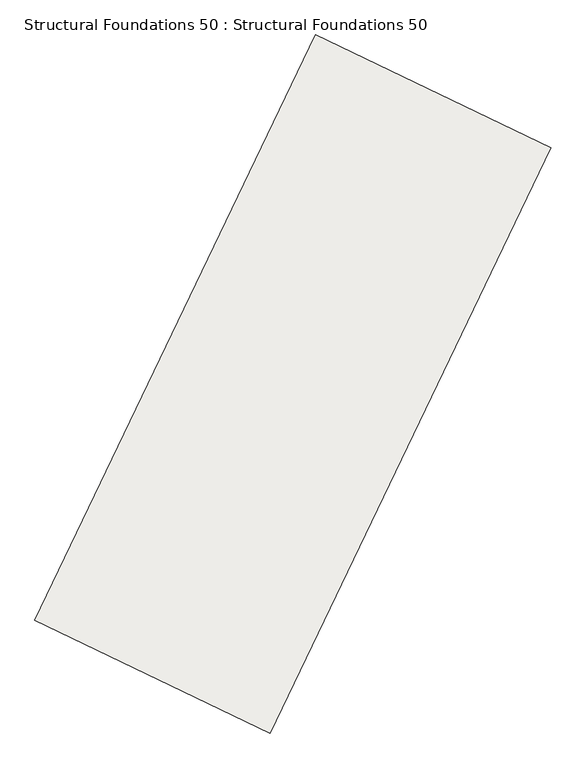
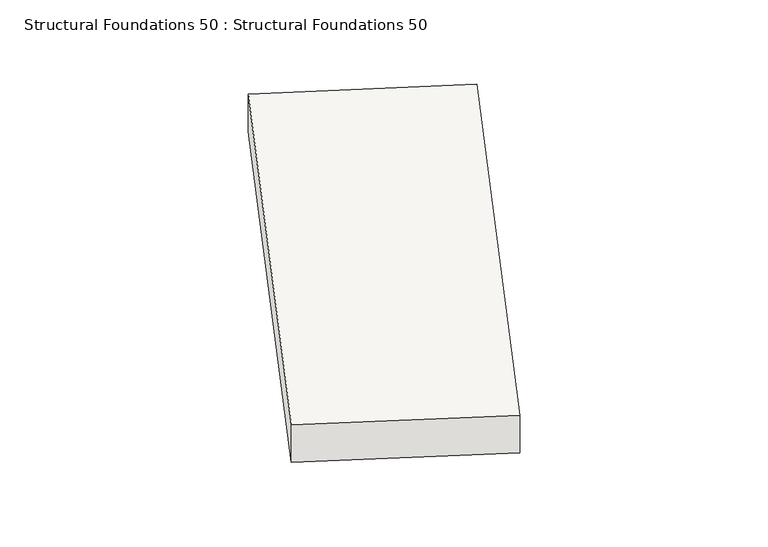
"""IFC4 building model written with IfcOpenShell, lengths in millimetres: slab geometry, Structural Foundations 50 : Structural Foundations 50."""

from ifc_helpers import new_model, si_unit, origin, place, context, project, spatial, faceted_brep, source, transform, mapped, element, save


def structural_foundations_50_structural_foundations_50_04dcd6c9(model_context):
    return source(origin(), model_context, "Body", "Brep", [
        faceted_brep([(423930.4709813, 369380.9181953, 646210.0), (427085.3914078, 367865.5247128, 646210.0), (427085.3914078, 367865.5247128, 646910.0), (423930.4709813, 369380.9181953, 646910.0), (427696.8280602, 377223.4021563, 646320.0), (427696.8280602, 377223.4021563, 647020.0), (430851.7484867, 375708.0086738, 647020.0), (430851.7484867, 375708.0086738, 646320.0)], [[[0, 1, 2, 3]], [[4, 5, 6, 7]], [[4, 7, 1, 0]], [[7, 6, 2, 1]], [[6, 5, 3, 2]], [[5, 4, 0, 3]]]),
    ])


if __name__ == "__main__":
    model = new_model("IFC4")
    model_context = context("Model", 3, world=origin())
    ifc_project = project(units=[si_unit("LENGTHUNIT", "METRE", prefix="MILLI")], contexts=[model_context])
    site = spatial("IfcSite", under=ifc_project)
    building = spatial("IfcBuilding", under=site)
    placement = place(None, origin())
    structural_foundations_50_structural_foundations_50_shape = structural_foundations_50_structural_foundations_50_04dcd6c9(model_context)
    element("IfcSlab", 1, ObjectType="Structural Foundations 50 : Structural Foundations 50", at=placement, inside=building, context=model_context, shape_type="MappedRepresentation", body=[
        mapped(structural_foundations_50_structural_foundations_50_shape, transform((0.0, 0.0, 0.0), x_axis=(1.0, 0.0, 0.0), y_axis=(0.0, 1.0, 0.0), z_axis=(0.0, 0.0, 1.0))),
    ])
    save(model, "model.ifc")
